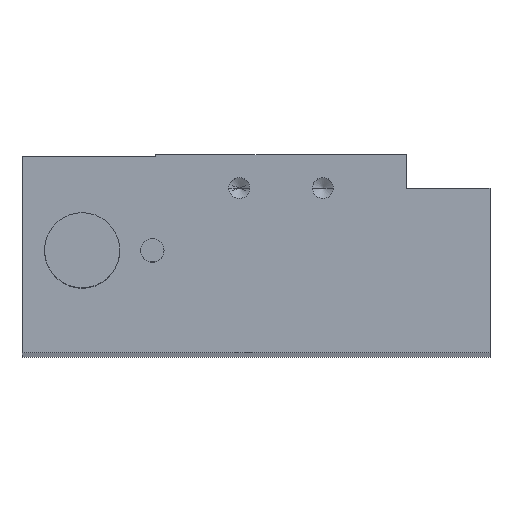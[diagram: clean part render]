
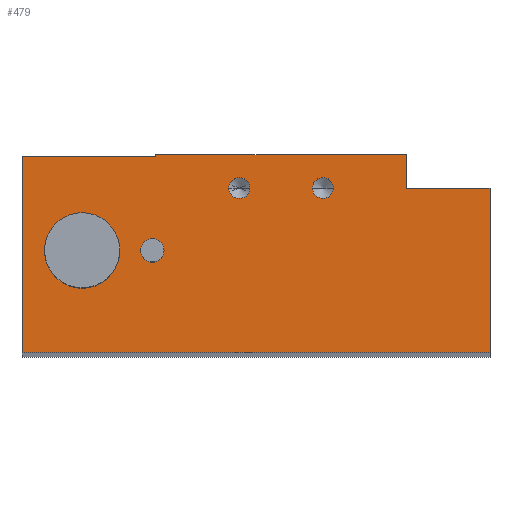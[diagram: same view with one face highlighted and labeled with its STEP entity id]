
A CAD part, top view. The second image highlights one B-rep face of the part: STEP entity #479.
In plain terms, the highlighted planar face has unit normal (0, 0, 1).
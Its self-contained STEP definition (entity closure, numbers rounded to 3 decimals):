
#25 = ORIENTED_EDGE ( 'NONE', *, *, #643, .T. ) ;
#38 = VECTOR ( 'NONE', #2042, 1000. ) ;
#42 = AXIS2_PLACEMENT_3D ( 'NONE', #271, #1449, #58 ) ;
#49 = CARTESIAN_POINT ( 'NONE',  ( 139.647, 658.543, 0. ) ) ;
#57 = ORIENTED_EDGE ( 'NONE', *, *, #1123, .F. ) ;
#58 = DIRECTION ( 'NONE',  ( 1., 0., 0. ) ) ;
#80 = DIRECTION ( 'NONE',  ( -1., 0., 0. ) ) ;
#86 = DIRECTION ( 'NONE',  ( 1., 0., 0. ) ) ;
#97 = AXIS2_PLACEMENT_3D ( 'NONE', #1934, #755, #2146 ) ;
#116 = ORIENTED_EDGE ( 'NONE', *, *, #1159, .T. ) ;
#151 = EDGE_CURVE ( 'NONE', #266, #1865, #2222, .T. ) ;
#155 = CIRCLE ( 'NONE', #2607, 4.5 ) ;
#224 = CARTESIAN_POINT ( 'NONE',  ( 109.647, 662.343, 0. ) ) ;
#255 = CIRCLE ( 'NONE', #97, 1.4 ) ;
#262 = EDGE_LOOP ( 'NONE', ( #460, #961 ) ) ;
#266 = VERTEX_POINT ( 'NONE', #897 ) ;
#271 = CARTESIAN_POINT ( 'NONE',  ( 119.647, 658.543, 0. ) ) ;
#304 = DIRECTION ( 'NONE',  ( 0., -1., 0. ) ) ;
#327 = CARTESIAN_POINT ( 'NONE',  ( 96.347, 651.043, 0. ) ) ;
#358 = ORIENTED_EDGE ( 'NONE', *, *, #791, .T. ) ;
#406 = DIRECTION ( 'NONE',  ( 1., 0., 0. ) ) ;
#460 = ORIENTED_EDGE ( 'NONE', *, *, #743, .F. ) ;
#478 = CARTESIAN_POINT ( 'NONE',  ( 110.647, 651.043, 0. ) ) ;
#479 = ADVANCED_FACE ( 'NONE', ( #610, #998, #1529, #484, #2531 ), #1868, .T. ) ;
#484 = FACE_BOUND ( 'NONE', #262, .T. ) ;
#487 = DIRECTION ( 'NONE',  ( 1., 0., 0. ) ) ;
#495 = CARTESIAN_POINT ( 'NONE',  ( 93.647, 662.343, 0. ) ) ;
#551 = ORIENTED_EDGE ( 'NONE', *, *, #1561, .T. ) ;
#591 = ORIENTED_EDGE ( 'NONE', *, *, #1823, .T. ) ;
#598 = LINE ( 'NONE', #2398, #1579 ) ;
#610 = FACE_BOUND ( 'NONE', #1062, .T. ) ;
#643 = EDGE_CURVE ( 'NONE', #1235, #1754, #1269, .T. ) ;
#647 = CARTESIAN_POINT ( 'NONE',  ( 100.847, 651.043, 0. ) ) ;
#656 = CARTESIAN_POINT ( 'NONE',  ( 93.647, 638.843, 0. ) ) ;
#665 = CARTESIAN_POINT ( 'NONE',  ( 109.647, 662.543, 0. ) ) ;
#669 = VECTOR ( 'NONE', #304, 1000. ) ;
#678 = CARTESIAN_POINT ( 'NONE',  ( 129.647, 658.543, 0. ) ) ;
#687 = LINE ( 'NONE', #1694, #1069 ) ;
#688 = CARTESIAN_POINT ( 'NONE',  ( 149.647, 638.843, 0. ) ) ;
#703 = VERTEX_POINT ( 'NONE', #951 ) ;
#705 = ORIENTED_EDGE ( 'NONE', *, *, #1417, .T. ) ;
#737 = CARTESIAN_POINT ( 'NONE',  ( 119.647, 658.543, 0. ) ) ;
#743 = EDGE_CURVE ( 'NONE', #846, #2579, #1956, .T. ) ;
#746 = EDGE_CURVE ( 'NONE', #703, #1649, #1553, .T. ) ;
#751 = CIRCLE ( 'NONE', #1527, 1.25 ) ;
#755 = DIRECTION ( 'NONE',  ( 0., 0., 1. ) ) ;
#780 = AXIS2_PLACEMENT_3D ( 'NONE', #688, #864, #2065 ) ;
#791 = EDGE_CURVE ( 'NONE', #1937, #1433, #1295, .T. ) ;
#795 = ORIENTED_EDGE ( 'NONE', *, *, #2554, .T. ) ;
#835 = DIRECTION ( 'NONE',  ( 1., 0., 0. ) ) ;
#846 = VERTEX_POINT ( 'NONE', #1633 ) ;
#855 = LINE ( 'NONE', #656, #38 ) ;
#864 = DIRECTION ( 'NONE',  ( 0., 0., 1. ) ) ;
#882 = CARTESIAN_POINT ( 'NONE',  ( 149.647, 658.543, 0. ) ) ;
#891 = CARTESIAN_POINT ( 'NONE',  ( 128.397, 658.543, 0. ) ) ;
#897 = CARTESIAN_POINT ( 'NONE',  ( 107.847, 651.043, 0. ) ) ;
#951 = CARTESIAN_POINT ( 'NONE',  ( 118.397, 658.543, 0. ) ) ;
#961 = ORIENTED_EDGE ( 'NONE', *, *, #2522, .F. ) ;
#998 = FACE_BOUND ( 'NONE', #2504, .T. ) ;
#1024 = VERTEX_POINT ( 'NONE', #1317 ) ;
#1062 = EDGE_LOOP ( 'NONE', ( #1716, #2067 ) ) ;
#1069 = VECTOR ( 'NONE', #1602, 1000. ) ;
#1072 = DIRECTION ( 'NONE',  ( 0., 0., 1. ) ) ;
#1118 = CARTESIAN_POINT ( 'NONE',  ( 109.647, 662.543, 0. ) ) ;
#1123 = EDGE_CURVE ( 'NONE', #1465, #2498, #155, .T. ) ;
#1136 = DIRECTION ( 'NONE',  ( 0., 1., 0. ) ) ;
#1142 = VECTOR ( 'NONE', #2331, 1000. ) ;
#1159 = EDGE_CURVE ( 'NONE', #1754, #1943, #687, .T. ) ;
#1160 = CARTESIAN_POINT ( 'NONE',  ( 109.247, 651.043, 0. ) ) ;
#1235 = VERTEX_POINT ( 'NONE', #1118 ) ;
#1261 = LINE ( 'NONE', #665, #2267 ) ;
#1269 = LINE ( 'NONE', #1316, #1142 ) ;
#1295 = LINE ( 'NONE', #49, #2372 ) ;
#1309 = EDGE_CURVE ( 'NONE', #1649, #703, #1367, .T. ) ;
#1316 = CARTESIAN_POINT ( 'NONE',  ( 109.647, 662.543, 0. ) ) ;
#1317 = CARTESIAN_POINT ( 'NONE',  ( 93.647, 638.843, 0. ) ) ;
#1326 = ORIENTED_EDGE ( 'NONE', *, *, #2373, .T. ) ;
#1367 = CIRCLE ( 'NONE', #2416, 1.25 ) ;
#1398 = LINE ( 'NONE', #2544, #2408 ) ;
#1417 = EDGE_CURVE ( 'NONE', #1943, #1024, #1773, .T. ) ;
#1433 = VERTEX_POINT ( 'NONE', #2308 ) ;
#1443 = CARTESIAN_POINT ( 'NONE',  ( 149.647, 638.843, 0. ) ) ;
#1449 = DIRECTION ( 'NONE',  ( 0., 0., 1. ) ) ;
#1465 = VERTEX_POINT ( 'NONE', #327 ) ;
#1473 = DIRECTION ( 'NONE',  ( 0., 0., 1. ) ) ;
#1492 = CARTESIAN_POINT ( 'NONE',  ( 93.647, 662.343, 0. ) ) ;
#1517 = VERTEX_POINT ( 'NONE', #1922 ) ;
#1527 = AXIS2_PLACEMENT_3D ( 'NONE', #2285, #1072, #2483 ) ;
#1529 = FACE_BOUND ( 'NONE', #1895, .T. ) ;
#1553 = CIRCLE ( 'NONE', #42, 1.25 ) ;
#1561 = EDGE_CURVE ( 'NONE', #1853, #1937, #1398, .T. ) ;
#1579 = VECTOR ( 'NONE', #2211, 1000. ) ;
#1602 = DIRECTION ( 'NONE',  ( -1., 0., 0. ) ) ;
#1633 = CARTESIAN_POINT ( 'NONE',  ( 130.897, 658.543, 0. ) ) ;
#1637 = AXIS2_PLACEMENT_3D ( 'NONE', #647, #2032, #835 ) ;
#1649 = VERTEX_POINT ( 'NONE', #2585 ) ;
#1678 = DIRECTION ( 'NONE',  ( 0., 0., 1. ) ) ;
#1685 = ORIENTED_EDGE ( 'NONE', *, *, #746, .F. ) ;
#1694 = CARTESIAN_POINT ( 'NONE',  ( 109.647, 662.343, 0. ) ) ;
#1716 = ORIENTED_EDGE ( 'NONE', *, *, #151, .F. ) ;
#1754 = VERTEX_POINT ( 'NONE', #224 ) ;
#1773 = LINE ( 'NONE', #1492, #669 ) ;
#1803 = EDGE_CURVE ( 'NONE', #2498, #1465, #2391, .T. ) ;
#1823 = EDGE_CURVE ( 'NONE', #1024, #1853, #855, .T. ) ;
#1826 = CARTESIAN_POINT ( 'NONE',  ( 105.347, 651.043, 0. ) ) ;
#1853 = VERTEX_POINT ( 'NONE', #1443 ) ;
#1854 = DIRECTION ( 'NONE',  ( 0., 0., 1. ) ) ;
#1865 = VERTEX_POINT ( 'NONE', #478 ) ;
#1868 = PLANE ( 'NONE',  #780 ) ;
#1890 = DIRECTION ( 'NONE',  ( 1., 0., 0. ) ) ;
#1895 = EDGE_LOOP ( 'NONE', ( #1996, #1685 ) ) ;
#1922 = CARTESIAN_POINT ( 'NONE',  ( 139.647, 662.543, 0. ) ) ;
#1934 = CARTESIAN_POINT ( 'NONE',  ( 109.247, 651.043, 0. ) ) ;
#1937 = VERTEX_POINT ( 'NONE', #882 ) ;
#1943 = VERTEX_POINT ( 'NONE', #495 ) ;
#1956 = CIRCLE ( 'NONE', #2512, 1.25 ) ;
#1978 = CARTESIAN_POINT ( 'NONE',  ( 100.847, 651.043, 0. ) ) ;
#1996 = ORIENTED_EDGE ( 'NONE', *, *, #1309, .F. ) ;
#2032 = DIRECTION ( 'NONE',  ( 0., 0., 1. ) ) ;
#2042 = DIRECTION ( 'NONE',  ( 1., 0., 0. ) ) ;
#2057 = DIRECTION ( 'NONE',  ( -1., 0., 0. ) ) ;
#2065 = DIRECTION ( 'NONE',  ( 1., 0., 0. ) ) ;
#2067 = ORIENTED_EDGE ( 'NONE', *, *, #2168, .F. ) ;
#2146 = DIRECTION ( 'NONE',  ( 1., 0., 0. ) ) ;
#2168 = EDGE_CURVE ( 'NONE', #1865, #266, #255, .T. ) ;
#2211 = DIRECTION ( 'NONE',  ( 0., 1., 0. ) ) ;
#2222 = CIRCLE ( 'NONE', #2577, 1.4 ) ;
#2267 = VECTOR ( 'NONE', #80, 1000. ) ;
#2285 = CARTESIAN_POINT ( 'NONE',  ( 129.647, 658.543, 0. ) ) ;
#2287 = EDGE_LOOP ( 'NONE', ( #551, #358, #1326, #795, #25, #116, #705, #591 ) ) ;
#2289 = ORIENTED_EDGE ( 'NONE', *, *, #1803, .F. ) ;
#2308 = CARTESIAN_POINT ( 'NONE',  ( 139.647, 658.543, 0. ) ) ;
#2331 = DIRECTION ( 'NONE',  ( 0., -1., 0. ) ) ;
#2366 = DIRECTION ( 'NONE',  ( 0., 0., 1. ) ) ;
#2372 = VECTOR ( 'NONE', #2057, 1000. ) ;
#2373 = EDGE_CURVE ( 'NONE', #1433, #1517, #598, .T. ) ;
#2391 = CIRCLE ( 'NONE', #1637, 4.5 ) ;
#2398 = CARTESIAN_POINT ( 'NONE',  ( 139.647, 662.543, 0. ) ) ;
#2408 = VECTOR ( 'NONE', #1136, 1000. ) ;
#2416 = AXIS2_PLACEMENT_3D ( 'NONE', #737, #1678, #406 ) ;
#2483 = DIRECTION ( 'NONE',  ( 1., 0., 0. ) ) ;
#2498 = VERTEX_POINT ( 'NONE', #1826 ) ;
#2504 = EDGE_LOOP ( 'NONE', ( #57, #2289 ) ) ;
#2512 = AXIS2_PLACEMENT_3D ( 'NONE', #678, #1854, #487 ) ;
#2522 = EDGE_CURVE ( 'NONE', #2579, #846, #751, .T. ) ;
#2531 = FACE_OUTER_BOUND ( 'NONE', #2287, .T. ) ;
#2544 = CARTESIAN_POINT ( 'NONE',  ( 149.647, 658.543, 0. ) ) ;
#2554 = EDGE_CURVE ( 'NONE', #1517, #1235, #1261, .T. ) ;
#2577 = AXIS2_PLACEMENT_3D ( 'NONE', #1160, #2366, #1890 ) ;
#2579 = VERTEX_POINT ( 'NONE', #891 ) ;
#2585 = CARTESIAN_POINT ( 'NONE',  ( 120.897, 658.543, 0. ) ) ;
#2607 = AXIS2_PLACEMENT_3D ( 'NONE', #1978, #1473, #86 ) ;
